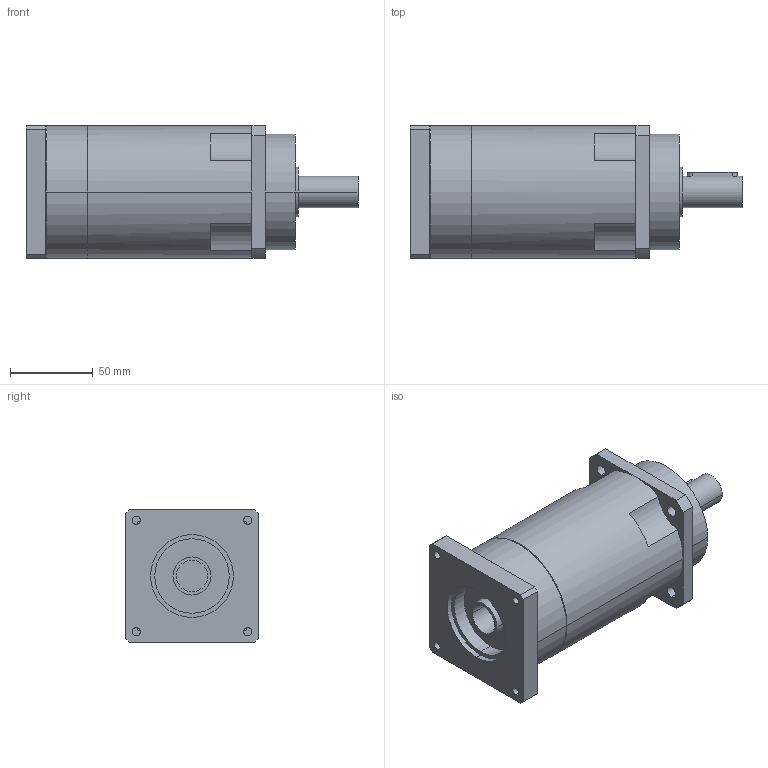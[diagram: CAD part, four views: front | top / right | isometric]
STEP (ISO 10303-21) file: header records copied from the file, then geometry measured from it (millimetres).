
FILE_DESCRIPTION(('CoCreate Modeling STEP Export'),'2;1');
FILE_NAME('GPR100_ig-48-64-80-100-120-144-180-216_19_B5_19_P21.stp','2014-08-26T11:56:25',(''),(''),'CoCreate Modeling STEP processor for AP214 (Solid Model)','CoCreate Modeling 16.00C 25-Feb-2009 (C) Parametric Technology GmbH','');
FILE_SCHEMA(('AUTOMOTIVE_DESIGN { 1 0 10303 214 1 1 1 1 }'));
Length unit declared in the file: millimetre
Products named in the file (2): GPR100_ig-48-64-80-100-120-144-180-216_19_B5_19_P21
Assembly tree (1 placements, depth 2):
  GPR100_ig-48-64-80-100-120-144-180-216_19_B5_19_P21
    GPR100_ig-48-64-80-100-120-144-180-216_19_B5_19_P21
Bounding box: 200.4 x 80 x 80 mm (x, y, z)
Volume: 795079.7 mm3; surface area: 65864.5 mm2
Topology: 1 solids, 1 shells, 86 faces, 240 edges, 164 vertices
Faces by surface type: cylinder 50, plane 30, cone 6
Entity records: 2542 total; most frequent: ORIENTED_EDGE 476, CARTESIAN_POINT 463, DIRECTION 376, EDGE_CURVE 238, VERTEX_POINT 164, AXIS2_PLACEMENT_3D 141, EDGE_LOOP 112, VECTOR 94
